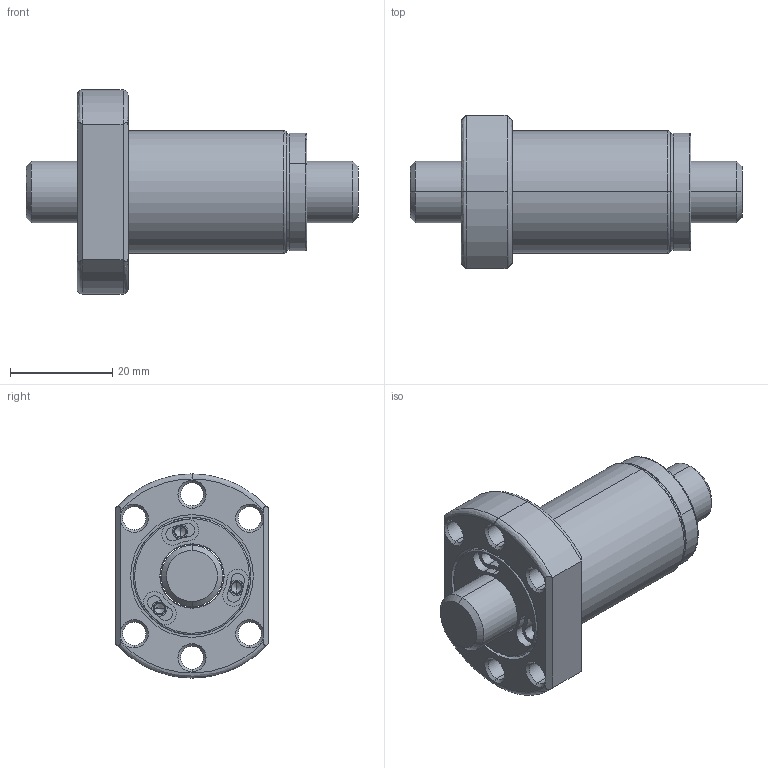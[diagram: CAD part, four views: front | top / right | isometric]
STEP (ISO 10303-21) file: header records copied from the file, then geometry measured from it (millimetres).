
FILE_DESCRIPTION (( 'STEP AP203' ), '1' );
FILE_NAME ('SFSR01210B1D-C.STEP', '2020-06-17T00:49:59', ( '' ), ( '' ), 'SwSTEP 2.0', 'SolidWorks 2013', '' );
FILE_SCHEMA (( 'CONFIG_CONTROL_DESIGN' ));
Length unit declared in the file: millimetre
Products named in the file (1): SFSR01210B1D-C
Bounding box: 65 x 30 x 40 mm (x, y, z)
Volume: 26017.1 mm3; surface area: 11879 mm2
Topology: 2 solids, 2 shells, 243 faces, 586 edges, 355 vertices
Faces by surface type: cylinder 123, plane 56, cone 52, bspline 12
Entity records: 7841 total; most frequent: CARTESIAN_POINT 1943, DIRECTION 1363, ORIENTED_EDGE 1148, AXIS2_PLACEMENT_3D 585, EDGE_CURVE 574, VERTEX_POINT 355, CIRCLE 353, EDGE_LOOP 277
